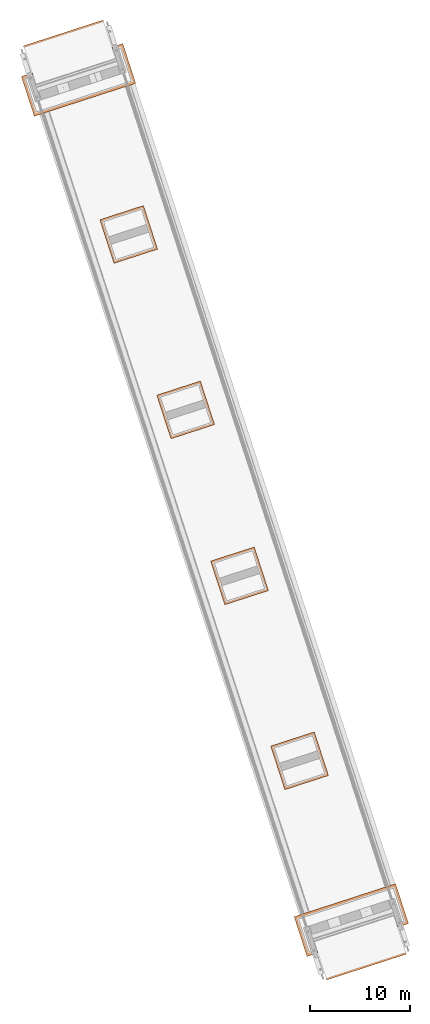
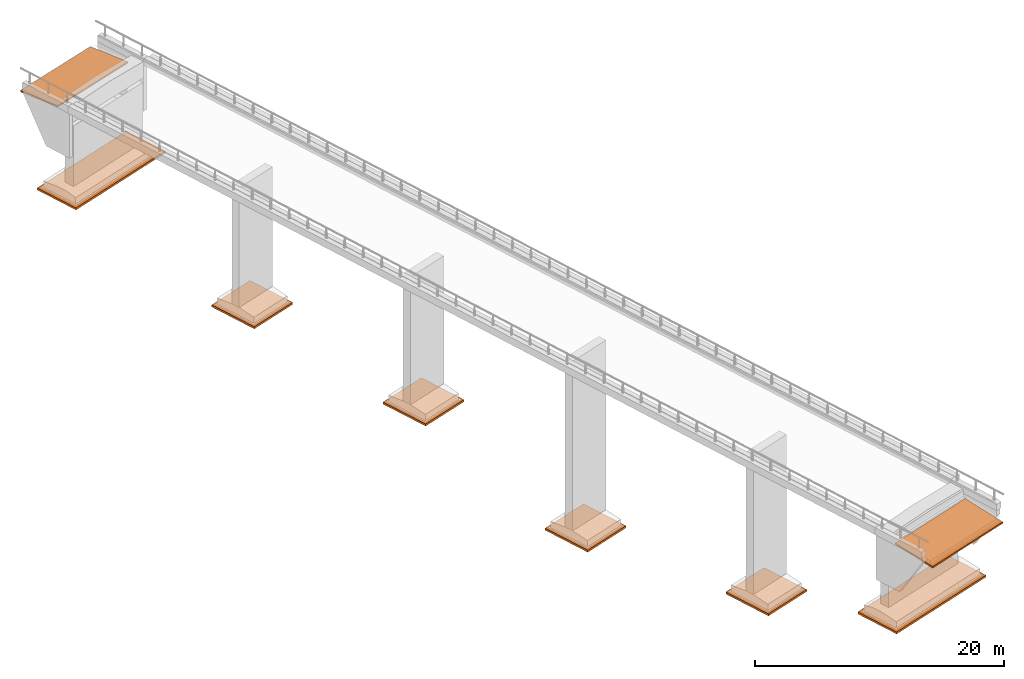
# Not in any storey, part 10 of 10: 8 earthworks fills.
"""IFC4X3_ADD2 model written with IfcOpenShell, lengths in metres."""

from ifc_helpers import new_model, entity, si_unit, converted_unit, derived_unit, direction, frame, frame_2d, origin, origin_2d, place, context, subcontext, project, library, spatial, rectangle, extrude, polygons, element, save


model = new_model("IFC4X3_ADD2")

# Units and contexts
model_context = context("Model", 3, precision=1e-05, world=origin(), true_north=direction((-0.011993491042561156, 0.9999280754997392)))
plan_context = context("Plan", 2, precision=1e-05, world=origin_2d())
body_context = subcontext(model_context, "Body", "Model", "MODEL_VIEW")
ifc_project = project(units=[si_unit("LENGTHUNIT", "METRE"), si_unit("AREAUNIT", "SQUARE_METRE"), si_unit("VOLUMEUNIT", "CUBIC_METRE"), si_unit("MASSUNIT", "GRAM", prefix="KILO"), converted_unit("TIMEUNIT", "year", entity("IfcTimeMeasure", 31557600.0), si_unit("TIMEUNIT", "SECOND"), dimensions=[0, 0, 1, 0, 0, 0, 0]), si_unit("PLANEANGLEUNIT", "RADIAN"), si_unit("THERMODYNAMICTEMPERATUREUNIT", "DEGREE_CELSIUS"), si_unit("FORCEUNIT", "NEWTON", prefix="KILO"), si_unit("PRESSUREUNIT", "PASCAL", prefix="MEGA"), si_unit("SOLIDANGLEUNIT", "STERADIAN"), derived_unit("MASSDENSITYUNIT", [(si_unit("MASSUNIT", "GRAM", prefix="KILO"), 1), (si_unit("VOLUMEUNIT", "CUBIC_METRE"), -1)]), derived_unit("MODULUSOFELASTICITYUNIT", [(si_unit("PRESSUREUNIT", "PASCAL", prefix="MEGA"), 1)]), derived_unit("THERMALEXPANSIONCOEFFICIENTUNIT", [(si_unit("THERMODYNAMICTEMPERATUREUNIT", "DEGREE_CELSIUS"), -1)])], contexts=[model_context, plan_context])
project_library = library(declared=ifc_project)

# Site, bridge, bridge parts
site_placement = place(None, origin())
site = spatial("IfcSite", under=ifc_project, at=site_placement, Name="Site BR-01", CompositionType="ELEMENT")
bridge_placement = place(site_placement, origin())
bridge = spatial("IfcBridge", under=site, at=bridge_placement, Name="BR-01", CompositionType="ELEMENT", PredefinedType="USERDEFINED")
bridge_part_1_placement = place(bridge_placement, origin())
bridge_part_1 = spatial("IfcBridgePart", under=bridge, at=bridge_part_1_placement, Name="Substructure", CompositionType="ELEMENT", PredefinedType="SUBSTRUCTURE", UsageType="VERTICAL")
bridge_part_2_placement = place(bridge_part_1_placement, frame((0.0, 0.0, 55.75)))
bridge_part_2 = spatial("IfcBridgePart", under=bridge_part_1, at=bridge_part_2_placement, Name="A1", CompositionType="ELEMENT", PredefinedType="ABUTMENT", UsageType="VERTICAL")

# Earthworks fill
earthworks_fill_1_placement = place(bridge_part_2_placement, frame((13.682492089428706, 116.61612665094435, 7.593803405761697), z_axis=(0.0, 0.0, 1.0), x_axis=(0.3088039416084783, -0.951125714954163, 0.0)))
element("IfcEarthworksFill", 1, at=earthworks_fill_1_placement, inside=bridge_part_2, Name="Approach slab stone bed A1", ObjectType="CRUSHEDSTONEBED", PredefinedType="USERDEFINED", context=body_context, shape_type="Tessellation", body=[
    polygons([(-2.02501, -4.19999, 0.05926), (-2.02501, -4.19999, 0.20926), (-2.02499, 4.2, 0.15), (-2.02499, 4.2, 0.0), (2.02499, -4.2, 0.46426), (2.02501, 4.19999, 0.405), (2.02499, -4.2, 0.61426), (2.02501, 4.19999, 0.555)], [[[1, 2, 3, 4]], [[5, 1, 4, 6]], [[7, 5, 6, 8]], [[4, 3, 6]], [[8, 6, 3]], [[2, 1, 5]], [[5, 7, 2]], [[2, 7, 8, 3]]], closed=True),
])

# Bridge part
bridge_part_3_placement = place(bridge_part_1_placement, frame((0.0, 0.0, 55.75)))
bridge_part_3 = spatial("IfcBridgePart", under=bridge_part_1, at=bridge_part_3_placement, Name="A2", CompositionType="ELEMENT", PredefinedType="ABUTMENT", UsageType="VERTICAL")

# Earthworks fills
earthworks_fill_2_placement = place(bridge_part_3_placement, frame((42.84878408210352, 26.782223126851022, 7.194667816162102), z_axis=(0.0, 0.0, 1.0), x_axis=(0.3088039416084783, -0.951125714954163, 0.0)))
element("IfcEarthworksFill", 2, at=earthworks_fill_2_placement, inside=bridge_part_3, Name="Approach slab stone bed A2", ObjectType="CRUSHEDSTONEBED", PredefinedType="USERDEFINED", context=body_context, shape_type="Tessellation", body=[
    polygons([(2.02501, 4.2, 0.15), (2.02499, -4.20001, 0.15004), (2.02499, -4.20001, 3e-05), (2.02501, 4.2, 0.0), (-2.02501, -4.2, 0.40503), (-2.02499, 4.20001, 0.405), (-2.02501, -4.2, 0.55503), (-2.02499, 4.20001, 0.555)], [[[1, 2, 3, 4]], [[4, 3, 5, 6]], [[6, 5, 7, 8]], [[6, 8, 1]], [[1, 4, 6]], [[7, 5, 2]], [[3, 2, 5]], [[8, 7, 2, 1]]], closed=True),
])
earthworks_fill_3_placement = place(bridge_part_2_placement, frame((14.585737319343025, 113.83407946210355, 0.0), z_axis=(0.0, 0.0, 1.0), x_axis=(0.3088039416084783, -0.951125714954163, 0.0)))
element("IfcEarthworksFill", 3, at=earthworks_fill_3_placement, inside=bridge_part_2, Name="Crushed stone bed A1", ObjectType="CRUSHEDSTONEBED", PredefinedType="USERDEFINED", context=body_context, shape_type="SweptSolid", body=[
    extrude(rectangle(XDim=4.200031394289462, YDim=10.700013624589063, at=frame_2d((-2.1442669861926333e-10, 6.204103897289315e-11))), origin(), (0.0, 0.0, 1.0), 0.20000076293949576),
])
earthworks_fill_4_placement = place(bridge_part_3_placement, frame((41.94553999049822, 29.564268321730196, 0.0), z_axis=(0.0, 0.0, 1.0), x_axis=(0.3088039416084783, -0.951125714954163, 0.0)))
element("IfcEarthworksFill", 4, at=earthworks_fill_4_placement, inside=bridge_part_3, Name="Crushed stone bed A2", ObjectType="CRUSHEDSTONEBED", PredefinedType="USERDEFINED", context=body_context, shape_type="SweptSolid", body=[
    extrude(rectangle(XDim=4.200027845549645, YDim=10.700011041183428, at=frame_2d((2.0146329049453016e-10, -4.3519854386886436e-11))), origin(), (0.0, 0.0, 1.0), 0.20000076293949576),
])

# Bridge part
bridge_part_4_placement = place(bridge_part_1_placement, frame((0.0, 0.0, 50.25)))
bridge_part_4 = spatial("IfcBridgePart", under=bridge_part_1, at=bridge_part_4_placement, Name="P1", CompositionType="ELEMENT", PredefinedType="PIER", UsageType="VERTICAL")

# Earthworks fill
earthworks_fill_5_placement = place(bridge_part_4_placement, frame((19.619193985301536, 98.33071531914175, 0.0), z_axis=(0.0, 0.0, 1.0), x_axis=(0.3088039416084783, -0.951125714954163, 0.0)))
element("IfcEarthworksFill", 5, at=earthworks_fill_5_placement, inside=bridge_part_4, Name="Crushed stone bed P1", ObjectType="CRUSHEDSTONEBED", PredefinedType="USERDEFINED", context=body_context, shape_type="SweptSolid", body=[
    extrude(rectangle(XDim=4.600006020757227, YDim=4.600011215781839, at=frame_2d((-3.401825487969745e-10, 9.893708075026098e-11))), origin(), (0.0, 0.0, 1.0), 0.20000076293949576),
])

# Bridge part
bridge_part_5_placement = place(bridge_part_1_placement, frame((0.0, 0.0, 49.4)))
bridge_part_5 = spatial("IfcBridgePart", under=bridge_part_1, at=bridge_part_5_placement, Name="P2", CompositionType="ELEMENT", PredefinedType="PIER", UsageType="VERTICAL")

# Earthworks fill
earthworks_fill_6_placement = place(bridge_part_5_placement, frame((25.332021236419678, 80.7348747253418, 0.0), z_axis=(0.0, 0.0, 1.0), x_axis=(0.3088039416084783, -0.951125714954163, 0.0)))
element("IfcEarthworksFill", 6, at=earthworks_fill_6_placement, inside=bridge_part_5, Name="Crushed stone bed P2", ObjectType="CRUSHEDSTONEBED", PredefinedType="USERDEFINED", context=body_context, shape_type="SweptSolid", body=[
    extrude(rectangle(XDim=4.600013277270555, YDim=4.600012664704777, at=origin_2d()), origin(), (0.0, 0.0, 1.0), 0.20000076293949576),
])

# Bridge part
bridge_part_6_placement = place(bridge_part_1_placement, frame((0.0, 0.0, 45.25)))
bridge_part_6 = spatial("IfcBridgePart", under=bridge_part_1, at=bridge_part_6_placement, Name="P3", CompositionType="ELEMENT", PredefinedType="PIER", UsageType="VERTICAL")

# Earthworks fill
earthworks_fill_7_placement = place(bridge_part_6_placement, frame((30.73604676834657, 64.09016043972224, 0.0), z_axis=(0.0, 0.0, 1.0), x_axis=(0.3088039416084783, -0.951125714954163, 0.0)))
element("IfcEarthworksFill", 7, at=earthworks_fill_7_placement, inside=bridge_part_6, Name="Crushed stone bed P3", ObjectType="CRUSHEDSTONEBED", PredefinedType="USERDEFINED", context=body_context, shape_type="SweptSolid", body=[
    extrude(rectangle(XDim=4.600013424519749, YDim=4.600011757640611, at=frame_2d((-1.7009149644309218e-10, 4.9468429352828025e-11))), origin(), (0.0, 0.0, 1.0), 0.20000076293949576),
])

# Bridge part
bridge_part_7_placement = place(bridge_part_1_placement, frame((0.0, 0.0, 48.15)))
bridge_part_7 = spatial("IfcBridgePart", under=bridge_part_1, at=bridge_part_7_placement, Name="P4", CompositionType="ELEMENT", PredefinedType="PIER", UsageType="VERTICAL")

# Earthworks fill
earthworks_fill_8_placement = place(bridge_part_7_placement, frame((36.75767521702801, 45.54319381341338, 0.0), z_axis=(0.0, 0.0, 1.0), x_axis=(0.3088039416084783, -0.951125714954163, 0.0)))
element("IfcEarthworksFill", 8, at=earthworks_fill_8_placement, inside=bridge_part_7, Name="Crushed stone bed P4", ObjectType="CRUSHEDSTONEBED", PredefinedType="USERDEFINED", context=body_context, shape_type="SweptSolid", body=[
    extrude(rectangle(XDim=4.600013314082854, YDim=4.600012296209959, at=frame_2d((6.179363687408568e-10, -2.0600432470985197e-10))), origin(), (0.0, 0.0, 1.0), 0.20000076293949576),
])

save(model, "model.ifc")
